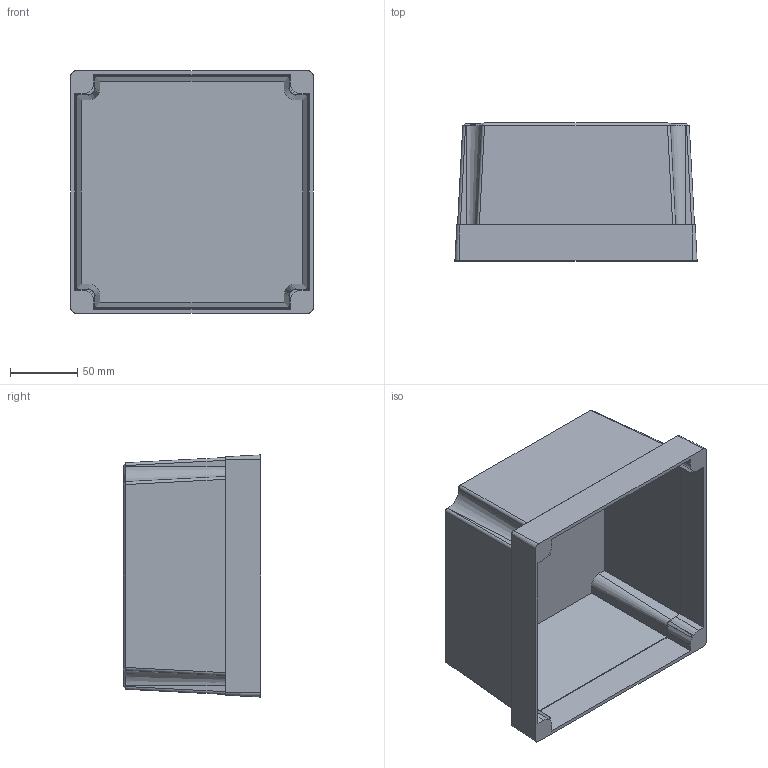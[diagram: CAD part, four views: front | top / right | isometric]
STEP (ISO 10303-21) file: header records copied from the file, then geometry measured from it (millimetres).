
FILE_DESCRIPTION (( 'STEP AP203' ), '1' );
FILE_NAME ('FIBOX_MNX175100C.STEP', '2005-06-30T06:40:45', ( ' ' ), ( ' ' ), 'SwSTEP 2.0', 'SolidWorks 2005143', '' );
FILE_SCHEMA (( 'CONFIG_CONTROL_DESIGN' ));
Length unit declared in the file: millimetre
Products named in the file (1): FIBOX_MNX175100C
Bounding box: 180 x 102.3 x 180 mm (x, y, z)
Volume: 218848.6 mm3; surface area: 195564.3 mm2
Topology: 1 solids, 1 shells, 123 faces, 332 edges, 218 vertices
Faces by surface type: plane 77, cone 24, cylinder 20, bspline 2
Entity records: 7713 total; most frequent: CARTESIAN_POINT 4614, ORIENTED_EDGE 664, DIRECTION 586, EDGE_CURVE 332, VERTEX_POINT 218, AXIS2_PLACEMENT_3D 198, VECTOR 190, LINE 190
